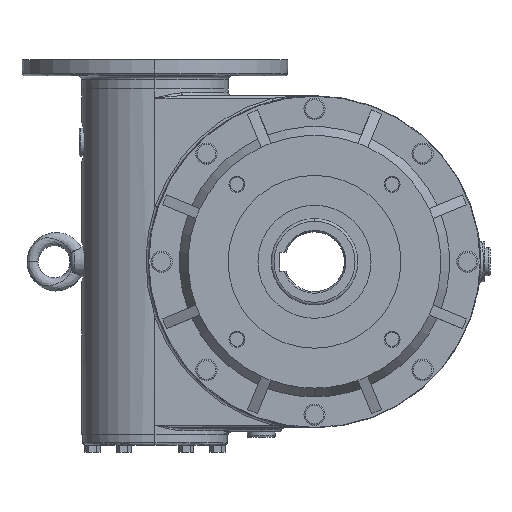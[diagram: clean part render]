
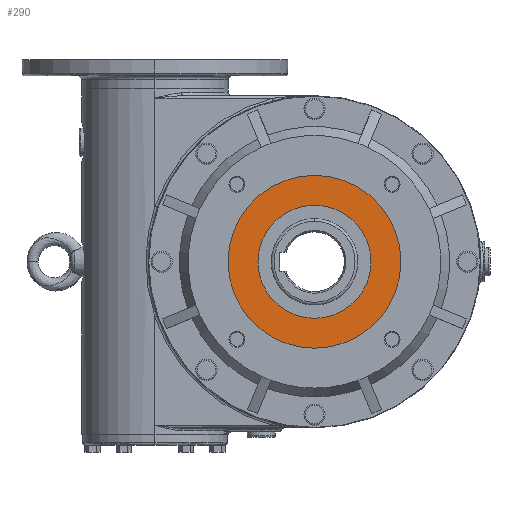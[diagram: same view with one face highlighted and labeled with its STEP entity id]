
A CAD part, left-side view. The second image highlights one B-rep face of the part: STEP entity #290.
In plain terms, the highlighted planar face has unit normal (-1, 0, 0) as drawn and (0, 0, 1) by its records, which use the part's own axes.
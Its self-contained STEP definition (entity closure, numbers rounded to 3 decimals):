
#286 = EDGE_CURVE ( 'NONE', #24450, #24460, #6252, .T. ) ;
#287 = ORIENTED_EDGE ( 'NONE', *, *, #289, .F. ) ;
#288 = ORIENTED_EDGE ( 'NONE', *, *, #24468, .F. ) ;
#289 = EDGE_CURVE ( 'NONE', #24469, #24455, #6309, .T. ) ;
#290 = ADVANCED_FACE ( 'NONE', ( #6304, #6303 ), #6302, .T. ) ;
#291 = EDGE_LOOP ( 'NONE', ( #298, #299 ) ) ;
#298 = ORIENTED_EDGE ( 'NONE', *, *, #24459, .T. ) ;
#299 = ORIENTED_EDGE ( 'NONE', *, *, #286, .T. ) ;
#300 = EDGE_LOOP ( 'NONE', ( #287, #288 ) ) ;
#6248 = DIRECTION ( 'NONE',  ( 1., 0., 0. ) ) ;
#6249 = DIRECTION ( 'NONE',  ( 0., 0., 1. ) ) ;
#6250 = CARTESIAN_POINT ( 'NONE',  ( 0., 0., 26. ) ) ;
#6251 = AXIS2_PLACEMENT_3D ( 'NONE', #6250, #6249, #6248 ) ;
#6252 = CIRCLE ( 'NONE', #6251, 65. ) ;
#6298 = DIRECTION ( 'NONE',  ( 1., 0., 0. ) ) ;
#6299 = DIRECTION ( 'NONE',  ( 0., 0., 1. ) ) ;
#6300 = CARTESIAN_POINT ( 'NONE',  ( 0., 16.327, 26. ) ) ;
#6301 = AXIS2_PLACEMENT_3D ( 'NONE', #6300, #6299, #6298 ) ;
#6302 = PLANE ( 'NONE',  #6301 ) ;
#6303 = FACE_BOUND ( 'NONE', #300, .T. ) ;
#6304 = FACE_OUTER_BOUND ( 'NONE', #291, .T. ) ;
#6305 = DIRECTION ( 'NONE',  ( 1., 0., 0. ) ) ;
#6306 = DIRECTION ( 'NONE',  ( 0., 0., 1. ) ) ;
#6307 = CARTESIAN_POINT ( 'NONE',  ( 0., 0., 26. ) ) ;
#6308 = AXIS2_PLACEMENT_3D ( 'NONE', #6307, #6306, #6305 ) ;
#6309 = CIRCLE ( 'NONE', #6308, 42.5 ) ;
#24450 = VERTEX_POINT ( 'NONE', #30759 ) ;
#24455 = VERTEX_POINT ( 'NONE', #30746 ) ;
#24459 = EDGE_CURVE ( 'NONE', #24460, #24450, #30809, .T. ) ;
#24460 = VERTEX_POINT ( 'NONE', #30805 ) ;
#24468 = EDGE_CURVE ( 'NONE', #24455, #24469, #30787, .T. ) ;
#24469 = VERTEX_POINT ( 'NONE', #30782 ) ;
#30745 = CARTESIAN_POINT ( 'NONE',  ( 0., 0., 26. ) ) ;
#30746 = CARTESIAN_POINT ( 'NONE',  ( -42.5, 0., 26. ) ) ;
#30759 = CARTESIAN_POINT ( 'NONE',  ( -65., 0., 26. ) ) ;
#30782 = CARTESIAN_POINT ( 'NONE',  ( 42.5, 0., 26. ) ) ;
#30783 = DIRECTION ( 'NONE',  ( 1., 0., 0. ) ) ;
#30784 = DIRECTION ( 'NONE',  ( 0., 0., 1. ) ) ;
#30785 = CARTESIAN_POINT ( 'NONE',  ( 0., 0., 26. ) ) ;
#30786 = AXIS2_PLACEMENT_3D ( 'NONE', #30785, #30784, #30783 ) ;
#30787 = CIRCLE ( 'NONE', #30786, 42.5 ) ;
#30805 = CARTESIAN_POINT ( 'NONE',  ( 65., 0., 26. ) ) ;
#30806 = DIRECTION ( 'NONE',  ( 1., 0., 0. ) ) ;
#30807 = DIRECTION ( 'NONE',  ( 0., 0., 1. ) ) ;
#30808 = AXIS2_PLACEMENT_3D ( 'NONE', #30745, #30807, #30806 ) ;
#30809 = CIRCLE ( 'NONE', #30808, 65. ) ;
